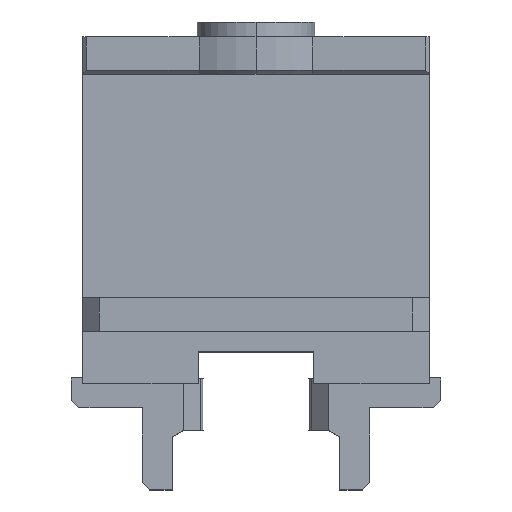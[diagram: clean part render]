
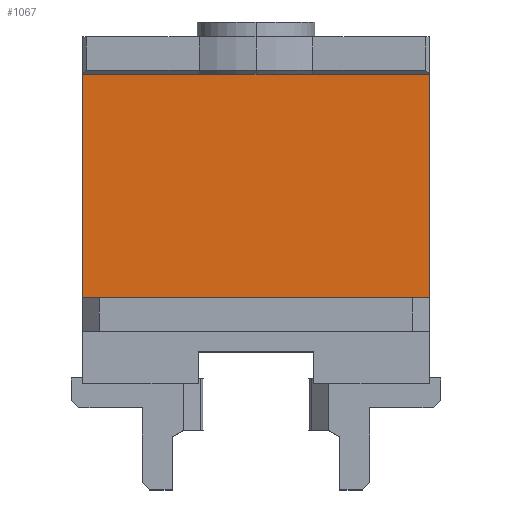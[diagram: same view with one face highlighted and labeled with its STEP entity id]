
A CAD part, top view. The second image highlights one B-rep face of the part: STEP entity #1067.
In plain terms, the highlighted planar face has unit normal (0, 0, 1).
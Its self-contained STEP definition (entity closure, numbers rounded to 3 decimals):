
#383 = DIRECTION ( 'NONE',  ( 0., 0., -1. ) ) ;
#706 = PLANE ( 'NONE',  #1597 ) ;
#707 = EDGE_CURVE ( 'NONE', #3079, #965, #2816, .T. ) ;
#878 = VECTOR ( 'NONE', #1244, 1000. ) ;
#905 = ORIENTED_EDGE ( 'NONE', *, *, #1384, .T. ) ;
#965 = VERTEX_POINT ( 'NONE', #1448 ) ;
#972 = CARTESIAN_POINT ( 'NONE',  ( 46.5, 32.25, 12. ) ) ;
#984 = VECTOR ( 'NONE', #2292, 1000. ) ;
#1027 = VECTOR ( 'NONE', #2997, 1000. ) ;
#1067 = ADVANCED_FACE ( 'NONE', ( #1968 ), #706, .F. ) ;
#1138 = ORIENTED_EDGE ( 'NONE', *, *, #3009, .F. ) ;
#1226 = ORIENTED_EDGE ( 'NONE', *, *, #707, .T. ) ;
#1244 = DIRECTION ( 'NONE',  ( -1., 0., 0. ) ) ;
#1384 = EDGE_CURVE ( 'NONE', #2561, #3079, #1880, .T. ) ;
#1448 = CARTESIAN_POINT ( 'NONE',  ( -46.5, 32.25, 12. ) ) ;
#1488 = LINE ( 'NONE', #2851, #984 ) ;
#1541 = EDGE_CURVE ( 'NONE', #2561, #1632, #1992, .T. ) ;
#1597 = AXIS2_PLACEMENT_3D ( 'NONE', #2719, #383, #1734 ) ;
#1628 = DIRECTION ( 'NONE',  ( 0., 1., 0. ) ) ;
#1632 = VERTEX_POINT ( 'NONE', #2027 ) ;
#1734 = DIRECTION ( 'NONE',  ( -1., 0., 0. ) ) ;
#1880 = LINE ( 'NONE', #2680, #2738 ) ;
#1950 = CARTESIAN_POINT ( 'NONE',  ( 46.5, -27.75, 12. ) ) ;
#1968 = FACE_OUTER_BOUND ( 'NONE', #2044, .T. ) ;
#1992 = LINE ( 'NONE', #1950, #1027 ) ;
#2027 = CARTESIAN_POINT ( 'NONE',  ( -46.5, -27.75, 12. ) ) ;
#2044 = EDGE_LOOP ( 'NONE', ( #1226, #1138, #2191, #905 ) ) ;
#2191 = ORIENTED_EDGE ( 'NONE', *, *, #1541, .F. ) ;
#2292 = DIRECTION ( 'NONE',  ( 0., 1., 0. ) ) ;
#2561 = VERTEX_POINT ( 'NONE', #2726 ) ;
#2680 = CARTESIAN_POINT ( 'NONE',  ( 46.5, -27.75, 12. ) ) ;
#2719 = CARTESIAN_POINT ( 'NONE',  ( 46.5, -27.75, 12. ) ) ;
#2726 = CARTESIAN_POINT ( 'NONE',  ( 46.5, -27.75, 12. ) ) ;
#2738 = VECTOR ( 'NONE', #1628, 1000. ) ;
#2816 = LINE ( 'NONE', #972, #878 ) ;
#2851 = CARTESIAN_POINT ( 'NONE',  ( -46.5, -27.75, 12. ) ) ;
#2997 = DIRECTION ( 'NONE',  ( -1., 0., 0. ) ) ;
#3009 = EDGE_CURVE ( 'NONE', #1632, #965, #1488, .T. ) ;
#3079 = VERTEX_POINT ( 'NONE', #3103 ) ;
#3103 = CARTESIAN_POINT ( 'NONE',  ( 46.5, 32.25, 12. ) ) ;
